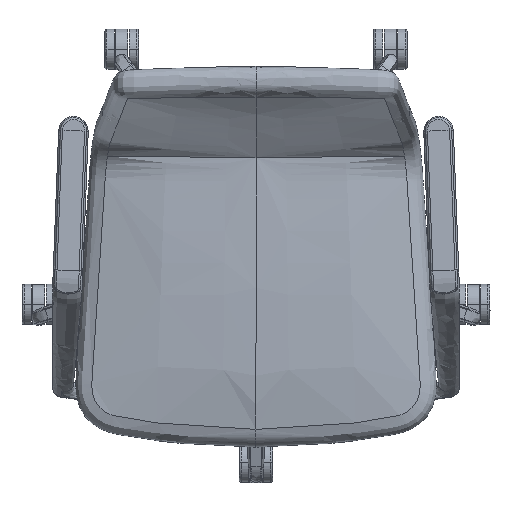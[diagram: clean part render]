
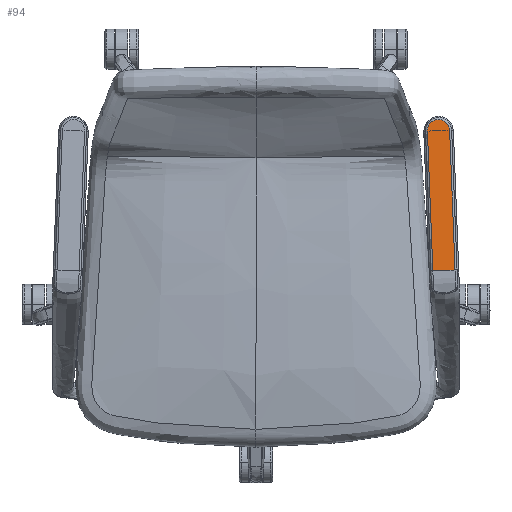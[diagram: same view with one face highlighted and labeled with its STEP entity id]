
A CAD part, top view. The second image highlights one B-rep face of the part: STEP entity #94.
In plain terms, the highlighted planar face has unit normal (-0.001, 0.068, 0.998).
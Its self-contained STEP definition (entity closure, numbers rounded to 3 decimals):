
#94=ADVANCED_FACE('',(#427),#4435,.T.);
#427=FACE_OUTER_BOUND('',#760,.T.);
#760=EDGE_LOOP('',(#1110,#1111));
#1110=ORIENTED_EDGE('',*,*,#2480,.T.);
#1111=ORIENTED_EDGE('',*,*,#2487,.F.);
#2480=EDGE_CURVE('',#4002,#3997,#3659,.T.);
#2487=EDGE_CURVE('',#4002,#3997,#3236,.T.);
#3236=(
BOUNDED_CURVE()
B_SPLINE_CURVE(3,(#5704,#5705,#5706,#5707,#5708,#5709,#5710,#5711,#5712,
#5713,#5714,#5715,#5716,#5717,#5718,#5719,#5720,#5721,#5722,#5723,#5724,
#5725,#5726),.UNSPECIFIED.,.F.,.F.)
B_SPLINE_CURVE_WITH_KNOTS((4,3,3,1,1,1,1,1,1,1,3,3,4),(0.,
4.793,208.24,214.719,221.199,227.678,
234.157,240.637,247.116,253.596,260.075,
463.522,468.315),.UNSPECIFIED.)
CURVE()
GEOMETRIC_REPRESENTATION_ITEM()
RATIONAL_B_SPLINE_CURVE((1.,1.,1.,1.,1.,1.,1.,1.,1.,1.,1.,
1.,1.,1.,1.,1.,1.,1.,
1.,1.,1.,1.,1.))
REPRESENTATION_ITEM('')
);
#3659=B_SPLINE_CURVE_WITH_KNOTS('',1,(#5641,#5642),.UNSPECIFIED.,.F.,.F.,
(2,2),(0.077,0.923),.UNSPECIFIED.);
#3997=VERTEX_POINT('',#5522);
#4002=VERTEX_POINT('',#5527);
#4435=PLANE('',#4856);
#4856=AXIS2_PLACEMENT_3D('',#5164,#4926,$);
#4926=DIRECTION('',(-0.001,0.068,0.998));
#5164=CARTESIAN_POINT('',(289.75,191.229,639.23));
#5522=CARTESIAN_POINT('',(295.503,-35.93,654.737));
#5527=CARTESIAN_POINT('',(262.527,-37.196,654.799));
#5641=CARTESIAN_POINT('',(262.527,-37.196,654.799));
#5642=CARTESIAN_POINT('',(295.503,-35.93,654.737));
#5704=CARTESIAN_POINT('',(262.527,-37.196,654.799));
#5705=CARTESIAN_POINT('',(262.466,-35.604,654.69));
#5706=CARTESIAN_POINT('',(262.404,-34.011,654.582));
#5707=CARTESIAN_POINT('',(262.343,-32.418,654.473));
#5708=CARTESIAN_POINT('',(259.738,35.19,649.857));
#5709=CARTESIAN_POINT('',(257.131,102.798,645.241));
#5710=CARTESIAN_POINT('',(254.526,170.407,640.625));
#5711=CARTESIAN_POINT('',(254.441,172.559,640.478));
#5712=CARTESIAN_POINT('',(255.135,176.898,640.183));
#5713=CARTESIAN_POINT('',(258.591,182.515,639.802));
#5714=CARTESIAN_POINT('',(263.938,186.385,639.542));
#5715=CARTESIAN_POINT('',(270.363,187.918,639.442));
#5716=CARTESIAN_POINT('',(276.886,186.882,639.517));
#5717=CARTESIAN_POINT('',(282.516,183.434,639.757));
#5718=CARTESIAN_POINT('',(286.394,178.099,640.124));
#5719=CARTESIAN_POINT('',(287.419,173.826,640.416));
#5720=CARTESIAN_POINT('',(287.501,171.673,640.563));
#5721=CARTESIAN_POINT('',(290.107,104.065,645.179));
#5722=CARTESIAN_POINT('',(292.713,36.457,649.795));
#5723=CARTESIAN_POINT('',(295.319,-31.151,654.411));
#5724=CARTESIAN_POINT('',(295.38,-32.744,654.52));
#5725=CARTESIAN_POINT('',(295.442,-34.337,654.628));
#5726=CARTESIAN_POINT('',(295.503,-35.93,654.737));
